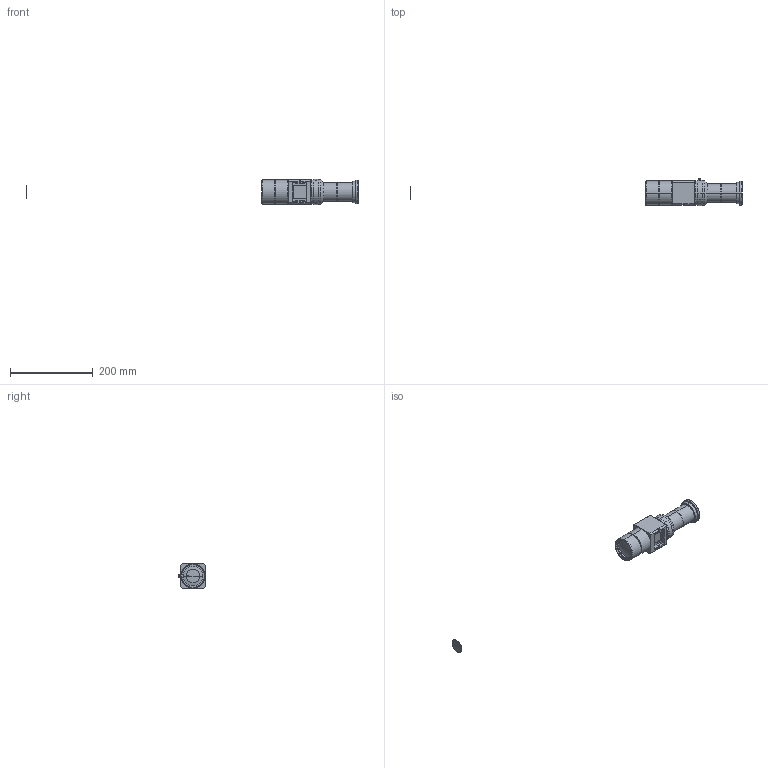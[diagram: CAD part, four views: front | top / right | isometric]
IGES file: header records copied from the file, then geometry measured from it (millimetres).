
Start section: SolidWorks IGES file using analytic representation for surfaces
Global section: file name: C:\Users\fujii\Desktop\VS-LTC3.5-80CO-45_S.IGS; native system: SolidWorks 2021; preprocessor: SolidWorks 2021; author: fujii; date: 230511.143740; units: millimetre
Bounding box: 804.41 x 66 x 61 mm (x, y, z)
Surface area: 60233.9 mm2 (no closed solid volume)
Topology: 0 solids, 0 shells, 259 faces, 3640 edges, 3638 vertices
Faces by surface type: revolution 161, bspline 98
